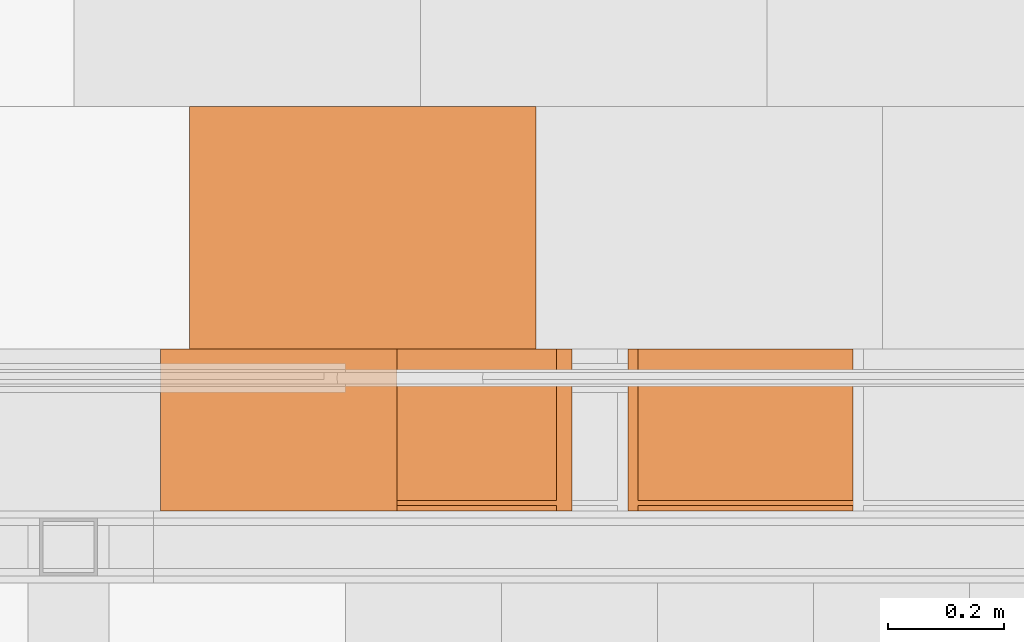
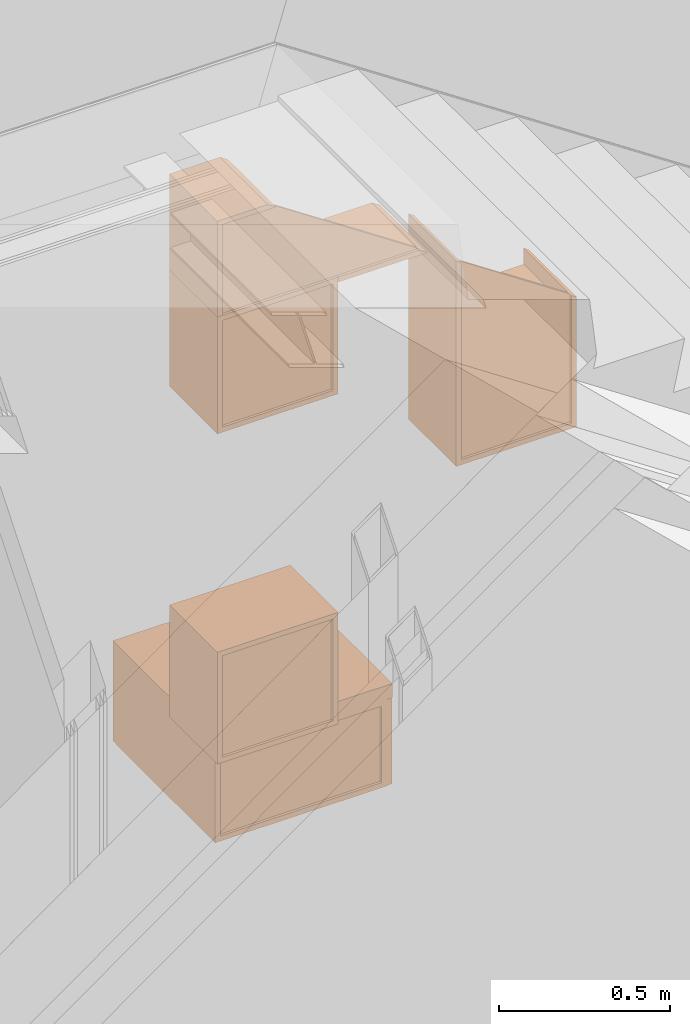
# One storey, part 161 of 165: 5 proxies.
"""IFC2X3 building model written with IfcOpenShell, lengths in millimetres."""

from ifc_helpers import new_model, entity, si_unit, converted_unit, derived_unit, money_unit, direction, frame, origin_with_axes, place, context, subcontext, project, spatial, faceted_brep, type_object, element, save


model = new_model("IFC2X3")

# Units and contexts
model_context = context("Model", 3, precision=0.01, world=origin_with_axes(), true_north=direction((0.0, 1.0)))
body_context = subcontext(model_context, "Body", "Model", "MODEL_VIEW")
ifc_project = project(units=[si_unit("LENGTHUNIT", "METRE", prefix="MILLI"), si_unit("AREAUNIT", "SQUARE_METRE"), si_unit("VOLUMEUNIT", "CUBIC_METRE"), converted_unit("PLANEANGLEUNIT", "DEGREE", entity("IfcPlaneAngleMeasure", 0.0174532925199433), si_unit("PLANEANGLEUNIT", "RADIAN"), dimensions=[0, 0, 0, 0, 0, 0, 0]), money_unit("EUR"), converted_unit("TIMEUNIT", "Year", entity("IfcTimeMeasure", 31556926.0), si_unit("TIMEUNIT", "SECOND"), dimensions=[0, 0, 1, 0, 0, 0, 0]), si_unit("MASSUNIT", "GRAM", prefix="KILO"), si_unit("THERMODYNAMICTEMPERATUREUNIT", "DEGREE_CELSIUS"), si_unit("LUMINOUSINTENSITYUNIT", "LUMEN"), si_unit("ENERGYUNIT", "JOULE", prefix="MEGA"), derived_unit("THERMALCONDUCTANCEUNIT", [(si_unit("POWERUNIT", "WATT"), 1), (si_unit("LENGTHUNIT", "METRE"), -1), (si_unit("THERMODYNAMICTEMPERATUREUNIT", "KELVIN"), -1)]), derived_unit("SPECIFICHEATCAPACITYUNIT", [(si_unit("ENERGYUNIT", "JOULE"), 1), (si_unit("MASSUNIT", "GRAM", prefix="KILO"), -1), (si_unit("THERMODYNAMICTEMPERATUREUNIT", "KELVIN"), -1)]), derived_unit("MASSDENSITYUNIT", [(si_unit("MASSUNIT", "GRAM", prefix="KILO"), 1), (si_unit("VOLUMEUNIT", "CUBIC_METRE"), -1)])], contexts=[model_context])

# Site, building, storey
site_placement = place(None, origin_with_axes())
site = spatial("IfcSite", under=ifc_project, at=site_placement, Name="Site", CompositionType="ELEMENT")
building_placement = place(site_placement, origin_with_axes())
building = spatial("IfcBuilding", under=site, at=building_placement, Name="Naam gebouw", CompositionType="ELEMENT")
storey_placement = place(building_placement, origin_with_axes())
storey = spatial("IfcBuildingStorey", under=building, at=storey_placement, Name="Begane grond", CompositionType="ELEMENT", Elevation=0.0)

# Proxies
building_element_proxy_type = type_object("IfcBuildingElementProxyType", Name="Onderkast recht 26", PredefinedType="NOTDEFINED")
proxy_1_placement = place(storey_placement, frame((14200.00001687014, 5830.000239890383, 359.9999999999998), z_axis=(0.0, 0.0, 1.0), x_axis=(-1.0, 0.0, 0.0)))
element("IfcBuildingElementProxy", 1, at=proxy_1_placement, inside=storey, type_object=building_element_proxy_type, Name="_Leeg", context=body_context, shape_type="Brep", body=[
    faceted_brep([(0.0, -600.0, 310.0), (0.0, -600.0, 360.0), (-600.0, -600.0, 360.0), (-600.0, -600.0, 310.0), (0.0, 0.0, 310.0), (0.0, 0.0, 360.0), (-600.0, 0.0, 360.0), (-600.0, 0.0, 310.0)], [[[0, 1, 2, 3]], [[4, 5, 1, 0]], [[1, 5, 6, 2]], [[3, 2, 6, 7]], [[0, 3, 7, 4]], [[7, 6, 5, 4]]]),
    faceted_brep([(-558.9999999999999, -582.0, 23.0), (-558.9999999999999, -18.00000000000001, 23.0), (-23.0, -18.00000000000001, 23.0), (-23.0, -582.0, 23.0), (-558.9999999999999, -582.0, 33.0), (-558.9999999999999, -18.00000000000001, 33.0), (-23.0, -18.00000000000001, 33.0), (-23.0, -582.0, 33.0)], [[[0, 1, 2, 3]], [[0, 4, 5, 1]], [[1, 5, 6, 2]], [[2, 6, 7, 3]], [[3, 7, 4, 0]], [[7, 6, 5, 4]]]),
    faceted_brep([(-43.0, -582.0, 33.0), (-43.0, -18.00000000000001, 33.0), (-23.0, -18.00000000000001, 33.0), (-23.0, -582.0, 33.0), (-43.0, -582.0, 286.9999999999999), (-43.0, -18.00000000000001, 286.9999999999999), (-23.0, -18.00000000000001, 286.9999999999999), (-23.0, -582.0, 286.9999999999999)], [[[0, 1, 2, 3]], [[0, 4, 5, 1]], [[1, 5, 6, 2]], [[2, 6, 7, 3]], [[3, 7, 4, 0]], [[7, 6, 5, 4]]]),
    faceted_brep([(-558.9999999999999, -582.0, 33.0), (-558.9999999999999, -18.00000000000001, 33.0), (-538.9999999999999, -18.00000000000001, 33.0), (-538.9999999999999, -582.0, 33.0), (-558.9999999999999, -582.0, 286.9999999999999), (-558.9999999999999, -18.00000000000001, 286.9999999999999), (-538.9999999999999, -18.00000000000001, 286.9999999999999), (-538.9999999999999, -582.0, 286.9999999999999)], [[[0, 1, 2, 3]], [[0, 4, 5, 1]], [[1, 5, 6, 2]], [[2, 6, 7, 3]], [[3, 7, 4, 0]], [[7, 6, 5, 4]]]),
    faceted_brep([(-538.9999999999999, -33.00000000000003, 33.0), (-538.9999999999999, -23.00000000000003, 33.0), (-43.0, -23.00000000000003, 33.0), (-43.0, -33.00000000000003, 33.0), (-538.9999999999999, -33.00000000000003, 286.9999999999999), (-538.9999999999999, -23.00000000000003, 286.9999999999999), (-43.0, -23.00000000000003, 286.9999999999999), (-43.0, -33.00000000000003, 286.9999999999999)], [[[0, 1, 2, 3]], [[0, 4, 5, 1]], [[1, 5, 6, 2]], [[2, 6, 7, 3]], [[3, 7, 4, 0]], [[7, 6, 5, 4]]]),
    faceted_brep([(-599.0, -600.0, 1.000000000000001), (-1.000000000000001, -600.0, 1.000000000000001), (-1.000000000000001, -600.0, 309.0), (-599.0, -600.0, 309.0), (-328.1907786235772, -600.0, 240.26060429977), (-325.9807621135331, -600.0, 244.9999999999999), (-322.9813332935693, -600.0, 249.2836282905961), (-319.2836282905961, -600.0, 252.9813332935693), (-314.9999999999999, -600.0, 255.9807621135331), (-310.26060429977, -600.0, 258.1907786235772), (-305.2094453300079, -600.0, 259.5442325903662), (-300.0, -600.0, 260.0), (-294.7905546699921, -600.0, 259.5442325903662), (-289.7393957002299, -600.0, 258.1907786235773), (-285.0, -600.0, 255.9807621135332), (-280.7163717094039, -600.0, 252.9813332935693), (-277.0186667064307, -600.0, 249.2836282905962), (-274.0192378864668, -600.0, 245.0), (-271.8092213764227, -600.0, 240.2606042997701), (-270.4557674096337, -600.0, 235.2094453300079), (-270.0, -600.0, 230.0), (-270.4557674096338, -600.0, 224.7905546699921), (-271.8092213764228, -600.0, 219.7393957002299), (-274.0192378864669, -600.0, 215.0), (-277.0186667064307, -600.0, 210.7163717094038), (-280.7163717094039, -600.0, 207.0186667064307), (-285.0, -600.0, 204.0192378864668), (-289.7393957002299, -600.0, 201.8092213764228), (-294.7905546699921, -600.0, 200.4557674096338), (-300.0, -600.0, 200.0), (-305.2094453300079, -600.0, 200.4557674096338), (-310.26060429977, -600.0, 201.8092213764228), (-314.9999999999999, -600.0, 204.0192378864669), (-319.2836282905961, -600.0, 207.0186667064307), (-322.9813332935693, -600.0, 210.7163717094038), (-325.9807621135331, -600.0, 215.0), (-328.1907786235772, -600.0, 219.7393957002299), (-329.5442325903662, -600.0, 224.7905546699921), (-329.9999999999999, -600.0, 230.0), (-329.5442325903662, -600.0, 235.2094453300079), (-599.0, -582.0, 1.000000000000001), (-1.000000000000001, -582.0, 1.000000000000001), (-1.000000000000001, -582.0, 309.0), (-599.0, -582.0, 309.0), (-325.9807621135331, -582.0, 244.9999999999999), (-328.1907786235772, -582.0, 240.26060429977), (-322.9813332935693, -582.0, 249.2836282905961), (-319.2836282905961, -582.0, 252.9813332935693), (-314.9999999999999, -582.0, 255.9807621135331), (-310.26060429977, -582.0, 258.1907786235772), (-305.2094453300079, -582.0, 259.5442325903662), (-300.0, -582.0, 260.0), (-294.7905546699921, -582.0, 259.5442325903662), (-289.7393957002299, -582.0, 258.1907786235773), (-285.0, -582.0, 255.9807621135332), (-280.7163717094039, -582.0, 252.9813332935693), (-277.0186667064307, -582.0, 249.2836282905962), (-274.0192378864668, -582.0, 245.0), (-271.8092213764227, -582.0, 240.2606042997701), (-270.4557674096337, -582.0, 235.2094453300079), (-270.0, -582.0, 230.0), (-270.4557674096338, -582.0, 224.7905546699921), (-271.8092213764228, -582.0, 219.7393957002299), (-274.0192378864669, -582.0, 215.0), (-277.0186667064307, -582.0, 210.7163717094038), (-280.7163717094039, -582.0, 207.0186667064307), (-285.0, -582.0, 204.0192378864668), (-289.7393957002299, -582.0, 201.8092213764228), (-294.7905546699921, -582.0, 200.4557674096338), (-300.0, -582.0, 200.0), (-305.2094453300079, -582.0, 200.4557674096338), (-310.26060429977, -582.0, 201.8092213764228), (-314.9999999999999, -582.0, 204.0192378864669), (-319.2836282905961, -582.0, 207.0186667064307), (-322.9813332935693, -582.0, 210.7163717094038), (-325.9807621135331, -582.0, 215.0), (-328.1907786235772, -582.0, 219.7393957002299), (-329.5442325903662, -582.0, 224.7905546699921), (-329.9999999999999, -582.0, 230.0), (-329.5442325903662, -582.0, 235.2094453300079)], [[[0, 1, 2, 3], [4, 5, 6, 7, 8, 9, 10, 11, 12, 13, 14, 15, 16, 17, 18, 19, 20, 21, 22, 23, 24, 25, 26, 27, 28, 29, 30, 31, 32, 33, 34, 35, 36, 37, 38, 39]], [[40, 41, 1, 0]], [[41, 42, 2, 1]], [[42, 43, 3, 2]], [[43, 40, 0, 3]], [[44, 5, 4, 45]], [[46, 6, 5, 44]], [[47, 7, 6, 46]], [[48, 8, 7, 47]], [[49, 9, 8, 48]], [[50, 10, 9, 49]], [[51, 11, 10, 50]], [[52, 12, 11, 51]], [[53, 13, 12, 52]], [[54, 14, 13, 53]], [[55, 15, 14, 54]], [[56, 16, 15, 55]], [[57, 17, 16, 56]], [[58, 18, 17, 57]], [[59, 19, 18, 58]], [[60, 20, 19, 59]], [[61, 21, 20, 60]], [[62, 22, 21, 61]], [[63, 23, 22, 62]], [[64, 24, 23, 63]], [[65, 25, 24, 64]], [[66, 26, 25, 65]], [[67, 27, 26, 66]], [[68, 28, 27, 67]], [[69, 29, 28, 68]], [[70, 30, 29, 69]], [[71, 31, 30, 70]], [[72, 32, 31, 71]], [[73, 33, 32, 72]], [[74, 34, 33, 73]], [[75, 35, 34, 74]], [[76, 36, 35, 75]], [[77, 37, 36, 76]], [[78, 38, 37, 77]], [[79, 39, 38, 78]], [[45, 4, 39, 79]], [[42, 41, 40, 43], [76, 75, 74, 73, 72, 71, 70, 69, 68, 67, 66, 65, 64, 63, 62, 61, 60, 59, 58, 57, 56, 55, 54, 53, 52, 51, 50, 49, 48, 47, 46, 44, 45, 79, 78, 77]]]),
    faceted_brep([(-582.0, -581.0, 1.0), (-600.0, -581.0, 1.000000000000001), (-600.0, -1.000000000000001, 1.000000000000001), (-582.0, -1.000000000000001, 1.0), (-582.0, -581.0, 309.0), (-600.0, -581.0, 309.0), (-600.0, -1.000000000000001, 309.0), (-582.0, -1.000000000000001, 309.0)], [[[0, 1, 2, 3]], [[4, 5, 1, 0]], [[1, 5, 6, 2]], [[3, 2, 6, 7]], [[0, 3, 7, 4]], [[7, 6, 5, 4]]]),
    faceted_brep([(-18.0, -582.0, 0.0), (-18.0, -582.0, 18.0), (-564.0, -582.0, 18.0), (-564.0, -582.0, 0.0), (-18.0, 0.0, 0.0), (-18.0, 0.0, 18.0), (-564.0, 0.0, 18.0), (-564.0, 0.0, 0.0)], [[[0, 1, 2, 3]], [[4, 5, 1, 0]], [[1, 5, 6, 2]], [[3, 2, 6, 7]], [[0, 3, 7, 4]], [[7, 6, 5, 4]]]),
    faceted_brep([(-18.0, -582.0, 292.0), (-564.0, -582.0, 292.0), (-564.0, -522.0, 292.0), (-18.0, -522.0, 292.0), (-18.0, -582.0, 310.0), (-564.0, -582.0, 310.0), (-564.0, -522.0, 310.0), (-18.0, -522.0, 310.0)], [[[0, 1, 2, 3]], [[4, 5, 1, 0]], [[1, 5, 6, 2]], [[3, 2, 6, 7]], [[0, 3, 7, 4]], [[7, 6, 5, 4]]]),
    faceted_brep([(-564.0, 0.0, 292.0), (-18.0, 0.0, 292.0), (-18.0, -60.0, 292.0), (-564.0, -60.0, 292.0), (-564.0, 0.0, 310.0), (-18.0, 0.0, 310.0), (-18.0, -60.0, 310.0), (-564.0, -60.0, 310.0)], [[[0, 1, 2, 3]], [[4, 5, 1, 0]], [[1, 5, 6, 2]], [[3, 2, 6, 7]], [[0, 3, 7, 4]], [[7, 6, 5, 4]]]),
    faceted_brep([(0.0, 0.0, 0.0), (0.0, 0.0, 310.0), (0.0, -582.0, 310.0), (0.0, -582.0, 0.0), (-18.0, 0.0, 0.0), (-18.0, 0.0, 310.0), (-18.0, -582.0, 310.0), (-18.0, -582.0, 0.0)], [[[0, 1, 2, 3]], [[4, 5, 1, 0]], [[1, 5, 6, 2]], [[3, 2, 6, 7]], [[0, 3, 7, 4]], [[7, 6, 5, 4]]]),
    faceted_brep([(-582.0, -582.0, 0.0), (-582.0, -582.0, 310.0), (-582.0, 0.0, 310.0), (-582.0, 0.0, 0.0), (-564.0, -582.0, 0.0), (-564.0, -582.0, 310.0), (-564.0, 0.0, 310.0), (-564.0, 0.0, 0.0)], [[[0, 1, 2, 3]], [[4, 5, 1, 0]], [[1, 5, 6, 2]], [[3, 2, 6, 7]], [[0, 3, 7, 4]], [[7, 6, 5, 4]]]),
    faceted_brep([(-564.0, -9.0, 18.0), (-564.0, -9.0, 292.0000000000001), (-18.00000000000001, -9.0, 292.0000000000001), (-18.00000000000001, -9.0, 18.0), (-564.0, -18.0, 18.0), (-564.0, -18.0, 292.0000000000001), (-18.00000000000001, -18.0, 292.0000000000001), (-18.00000000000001, -18.0, 18.0)], [[[0, 1, 2, 3]], [[4, 5, 1, 0]], [[1, 5, 6, 2]], [[3, 2, 6, 7]], [[0, 3, 7, 4]], [[7, 6, 5, 4]]]),
])
proxy_2_placement = place(storey_placement, frame((14558.57015574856, 5729.997304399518, 719.9999999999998), z_axis=(0.0, 0.0, 1.0), x_axis=(-1.0, 0.0, 0.0)))
element("IfcBuildingElementProxy", 2, at=proxy_2_placement, inside=storey, type_object=building_element_proxy_type, Name="_Leeg", context=body_context, shape_type="Brep", body=[
    faceted_brep([(18.0, -280.0000000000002, 0.0), (390.9999999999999, -280.0000000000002, 0.0), (390.9999999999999, -280.0000000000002, 18.0), (18.0, -280.0000000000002, 18.0), (18.0, 0.0, 0.0), (390.9999999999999, 0.0, 0.0), (390.9999999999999, 0.0, 18.0), (18.0, 0.0, 18.0)], [[[0, 1, 2, 3]], [[0, 4, 5, 1]], [[1, 5, 6, 2]], [[3, 2, 6, 7]], [[4, 0, 3, 7]], [[5, 4, 7, 6]]]),
    faceted_brep([(18.0, -280.0000000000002, 381.9999999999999), (390.9999999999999, -280.0000000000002, 381.9999999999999), (390.9999999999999, -280.0000000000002, 399.9999999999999), (18.0, -280.0000000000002, 399.9999999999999), (18.0, 0.0, 381.9999999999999), (390.9999999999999, 0.0, 381.9999999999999), (390.9999999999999, 0.0, 399.9999999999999), (18.0, 0.0, 399.9999999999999)], [[[0, 1, 2, 3]], [[0, 4, 5, 1]], [[1, 5, 6, 2]], [[3, 2, 6, 7]], [[4, 0, 3, 7]], [[5, 4, 7, 6]]]),
    faceted_brep([(0.0, 0.0, 0.0), (0.0, -280.0000000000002, 0.0), (0.0, -280.0000000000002, 399.9999999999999), (0.0, 0.0, 399.9999999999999), (18.0, 0.0, 0.0), (18.0, -280.0000000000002, 0.0), (18.0, -280.0000000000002, 399.9999999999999), (18.0, 0.0, 399.9999999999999)], [[[0, 1, 2, 3]], [[0, 4, 5, 1]], [[1, 5, 6, 2]], [[3, 2, 6, 7]], [[4, 0, 3, 7]], [[5, 4, 7, 6]]]),
    faceted_brep([(409.0, -280.0000000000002, 0.0), (409.0, 0.0, 0.0), (409.0, 0.0, 399.9999999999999), (409.0, -280.0000000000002, 399.9999999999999), (390.9999999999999, -280.0000000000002, 0.0), (390.9999999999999, 0.0, 0.0), (390.9999999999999, 0.0, 399.9999999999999), (390.9999999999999, -280.0000000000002, 399.9999999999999)], [[[0, 1, 2, 3]], [[0, 4, 5, 1]], [[1, 5, 6, 2]], [[3, 2, 6, 7]], [[4, 0, 3, 7]], [[5, 4, 7, 6]]]),
    faceted_brep([(390.9999999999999, -9.0, 18.0), (18.00000000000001, -9.0, 18.0), (18.00000000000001, -9.0, 381.9999999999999), (390.9999999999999, -9.0, 381.9999999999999), (390.9999999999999, -18.0, 18.0), (18.00000000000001, -18.0, 18.0), (18.00000000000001, -18.0, 381.9999999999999), (390.9999999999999, -18.0, 381.9999999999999)], [[[0, 1, 2, 3]], [[0, 4, 5, 1]], [[1, 5, 6, 2]], [[3, 2, 6, 7]], [[4, 0, 3, 7]], [[5, 4, 7, 6]]]),
])
proxy_3_placement = place(storey_placement, frame((15366.57015574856, 5729.997304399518, 1502.0), z_axis=(0.0, 0.0, 1.0), x_axis=(-1.0, 0.0, 0.0)))
element("IfcBuildingElementProxy", 3, at=proxy_3_placement, inside=storey, type_object=building_element_proxy_type, Name="_Leeg", context=body_context, shape_type="Brep", body=[
    faceted_brep([(18.00000000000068, -280.0000000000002, 417.9999999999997), (18.00000000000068, -280.0000000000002, 399.9999999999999), (390.0000000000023, -280.0000000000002, 399.9999999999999), (390.0000000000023, -280.0000000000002, 417.9999999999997), (18.00000000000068, -17.99999999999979, 417.9999999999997), (18.00000000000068, -17.99999999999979, 399.9999999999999), (390.0000000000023, -17.99999999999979, 399.9999999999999), (390.0000000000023, -17.99999999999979, 417.9999999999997)], [[[0, 1, 2, 3]], [[4, 5, 1, 0]], [[2, 1, 5, 6]], [[3, 2, 6, 7]], [[4, 0, 3, 7]], [[7, 6, 5, 4]]]),
    faceted_brep([(18.00000000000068, -280.0000000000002, 18.00000000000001), (18.00000000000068, -280.0000000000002, 0.0), (390.0000000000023, -280.0000000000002, 0.0), (390.0000000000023, -280.0000000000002, 18.00000000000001), (18.00000000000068, 0.0, 18.00000000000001), (18.00000000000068, 0.0, 0.0), (390.0000000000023, 0.0, 0.0), (390.0000000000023, 0.0, 18.00000000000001)], [[[0, 1, 2, 3]], [[4, 5, 1, 0]], [[2, 1, 5, 6]], [[3, 2, 6, 7]], [[4, 0, 3, 7]], [[7, 6, 5, 4]]]),
    faceted_brep([(390.0000000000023, -17.99999999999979, 723.6296732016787), (18.00000000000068, -17.99999999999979, 475.6296732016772), (18.00000000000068, -17.99999999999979, 18.00000000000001), (390.0000000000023, -17.99999999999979, 18.00000000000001), (18.00000000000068, -9.000000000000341, 475.6296731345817), (390.0000000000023, -9.000000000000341, 723.6296731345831), (18.00000000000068, -9.000000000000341, 18.00000000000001), (390.0000000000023, -9.000000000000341, 18.00000000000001)], [[[0, 1, 2, 3]], [[4, 1, 0, 5]], [[1, 4, 6, 2]], [[6, 7, 3, 2]], [[5, 0, 3, 7]], [[4, 5, 7, 6]]]),
    faceted_brep([(18.00000000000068, -279.9999858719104, 475.6296751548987), (0.0, -279.9999856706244, 463.6296751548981), (0.0, -280.0000000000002, 0.0), (18.00000000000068, -280.0000000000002, 0.0), (0.0, 0.0001125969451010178, 463.6296730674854), (18.00000000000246, 0.0001123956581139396, 475.6296730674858), (0.0, 0.0, 0.0), (18.00000000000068, 0.0, 0.0)], [[[0, 1, 2, 3]], [[4, 1, 0, 5]], [[1, 4, 6, 2]], [[2, 6, 7, 3]], [[5, 0, 3, 7]], [[4, 5, 7, 6]]]),
    faceted_brep([(408.000000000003, -279.9999902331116, 735.6296751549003), (390.0000000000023, -279.9999900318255, 723.6296751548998), (390.0000000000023, -280.0000000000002, 0.0), (408.000000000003, -280.0000000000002, 0.0), (390.0000000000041, 0.0001082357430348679, 723.6296730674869), (408.0000000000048, 0.0001080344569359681, 735.6296730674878), (390.0000000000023, 0.0, 0.0), (408.000000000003, 0.0, 0.0)], [[[0, 1, 2, 3]], [[4, 1, 0, 5]], [[1, 4, 6, 2]], [[7, 3, 2, 6]], [[5, 0, 3, 7]], [[4, 5, 7, 6]]]),
])
proxy_4_placement = place(storey_placement, frame((14558.57015574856, 5729.997304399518, 1902.0), z_axis=(0.0, 0.0, 1.0), x_axis=(-1.0, 0.0, 0.0)))
element("IfcBuildingElementProxy", 4, at=proxy_4_placement, inside=storey, type_object=building_element_proxy_type, Name="_Leeg", context=body_context, shape_type="Brep", body=[
    faceted_brep([(18.0, -280.0000000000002, 0.0), (391.0000000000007, -280.0000000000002, 0.0), (391.0000000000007, -280.0000000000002, 18.0), (18.0, -280.0000000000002, 18.0), (18.0, 0.0, 0.0), (391.0000000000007, 0.0, 0.0), (391.0000000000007, 0.0, 18.0), (18.0, 0.0, 18.0)], [[[0, 1, 2, 3]], [[0, 4, 5, 1]], [[1, 5, 6, 2]], [[3, 2, 6, 7]], [[4, 0, 3, 7]], [[5, 4, 7, 6]]]),
    faceted_brep([(18.0, -280.0000000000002, 399.9999999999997), (391.0000000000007, -280.0000000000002, 399.9999999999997), (391.0000000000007, -280.0000000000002, 417.9999999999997), (18.0, -280.0000000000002, 417.9999999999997), (18.0, 0.0, 399.9999999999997), (391.0000000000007, 0.0, 399.9999999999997), (391.0000000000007, 0.0, 417.9999999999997), (18.0, 0.0, 417.9999999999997)], [[[0, 1, 2, 3]], [[0, 4, 5, 1]], [[1, 5, 6, 2]], [[3, 2, 6, 7]], [[4, 0, 3, 7]], [[5, 4, 7, 6]]]),
    faceted_brep([(0.0, 0.0, 0.0), (0.0, -280.0000000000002, 0.0), (0.0, -280.0000000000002, 417.9999999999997), (0.0, 0.0, 417.9999999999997), (18.0, 0.0, 0.0), (18.0, -280.0000000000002, 0.0), (18.0, -280.0000000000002, 417.9999999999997), (18.0, 0.0, 417.9999999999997)], [[[0, 1, 2, 3]], [[0, 4, 5, 1]], [[1, 5, 6, 2]], [[3, 2, 6, 7]], [[4, 0, 3, 7]], [[5, 4, 7, 6]]]),
    faceted_brep([(409.0000000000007, -280.0000000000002, 0.0), (409.0000000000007, 0.0, 0.0), (409.0000000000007, 0.0, 417.9999999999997), (409.0000000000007, -280.0000000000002, 417.9999999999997), (391.0000000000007, -280.0000000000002, 0.0), (391.0000000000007, 0.0, 0.0), (391.0000000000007, 0.0, 417.9999999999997), (391.0000000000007, -280.0000000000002, 417.9999999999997)], [[[0, 1, 2, 3]], [[0, 4, 5, 1]], [[1, 5, 6, 2]], [[3, 2, 6, 7]], [[4, 0, 3, 7]], [[5, 4, 7, 6]]]),
    faceted_brep([(391.0000000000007, -9.0, 18.0), (18.00000000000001, -9.0, 18.0), (18.00000000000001, -9.0, 399.9999999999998), (391.0000000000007, -9.0, 399.9999999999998), (391.0000000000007, -18.0, 18.0), (18.00000000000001, -18.0, 18.0), (18.00000000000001, -18.0, 399.9999999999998), (391.0000000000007, -18.0, 399.9999999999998)], [[[0, 1, 2, 3]], [[0, 4, 5, 1]], [[1, 5, 6, 2]], [[3, 2, 6, 7]], [[4, 0, 3, 7]], [[5, 4, 7, 6]]]),
])
proxy_5_placement = place(storey_placement, frame((14958.57015574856, 5729.997304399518, 2302.0), z_axis=(0.0, 0.0, 1.0), x_axis=(-1.0, 0.0, 0.0)))
element("IfcBuildingElementProxy", 5, at=proxy_5_placement, inside=storey, type_object=building_element_proxy_type, Name="_Leeg", context=body_context, shape_type="Brep", body=[
    faceted_brep([(123.5554872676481, -279.9999916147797, 17.99999999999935), (96.55548726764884, -279.9999913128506, 0.0), (791.0000000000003, -280.0000000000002, 0.0), (791.0000000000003, -280.0000000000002, 17.99999999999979), (96.55549039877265, 0.0001069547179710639, 0.0), (123.5554903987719, 0.0001066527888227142, 18.00000000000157), (791.0000000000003, 0.0, 0.0), (791.0000000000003, 0.0, 17.99999999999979)], [[[0, 1, 2, 3]], [[4, 1, 0, 5]], [[1, 4, 6, 2]], [[3, 2, 6, 7]], [[5, 0, 3, 7]], [[4, 5, 7, 6]]]),
    faceted_brep([(611.0554901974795, -17.99999999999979, 342.9999999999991), (123.5554901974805, -17.99999999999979, 17.99999999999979), (791.0000000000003, -17.99999999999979, 17.99999999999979), (791.0000000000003, -17.99999999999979, 342.9999999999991), (123.5554902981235, -9.000000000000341, 17.99999999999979), (611.0554902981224, -9.000000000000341, 342.9999999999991), (791.0000000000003, -9.000000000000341, 17.99999999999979), (791.0000000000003, -9.000000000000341, 342.9999999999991)], [[[0, 1, 2, 3]], [[4, 1, 0, 5]], [[1, 4, 6, 2]], [[3, 2, 6, 7]], [[5, 0, 3, 7]], [[4, 5, 7, 6]]]),
    faceted_brep([(638.0554872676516, -279.9999973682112, 361.000000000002), (611.055487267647, -279.9999970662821, 342.9999999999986), (791.0000000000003, -280.0000000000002, 342.9999999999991), (791.0000000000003, -280.0000000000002, 360.9999999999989), (611.0554903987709, 0.0001012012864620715, 343.0000000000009), (638.0554903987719, 0.0001008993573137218, 361.000000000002), (791.0000000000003, 0.0, 342.9999999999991), (791.0000000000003, 0.0, 360.9999999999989)], [[[0, 1, 2, 3]], [[4, 1, 0, 5]], [[1, 4, 6, 2]], [[3, 2, 6, 7]], [[5, 0, 3, 7]], [[4, 5, 7, 6]]]),
    faceted_brep([(809.000000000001, -280.0000000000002, 360.9999999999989), (809.000000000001, -280.0000000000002, 0.0), (809.000000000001, 0.0, 0.0), (809.000000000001, 0.0, 360.9999999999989), (791.0000000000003, -280.0000000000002, 360.9999999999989), (791.0000000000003, -280.0000000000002, 0.0), (791.0000000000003, 0.0, 0.0), (791.0000000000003, 0.0, 360.9999999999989)], [[[0, 1, 2, 3]], [[4, 5, 1, 0]], [[2, 1, 5, 6]], [[3, 2, 6, 7]], [[4, 0, 3, 7]], [[7, 6, 5, 4]]]),
])

save(model, "model.ifc")
